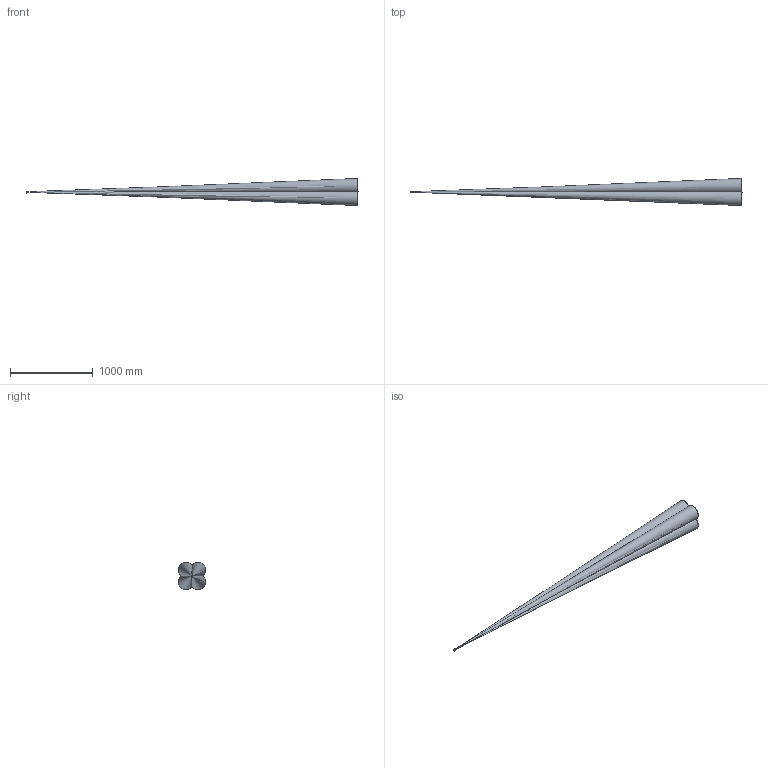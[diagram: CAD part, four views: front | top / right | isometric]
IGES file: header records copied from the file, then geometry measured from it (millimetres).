
Start section: C
Global section: file name: O200.RP-xxxx.xxxx_H006.igs; native system: By Siemens PLM Incorporated; preprocessor: XPlus GENERIC/IGES 19.0.9; author: Author; organization: Title; date: 20190117.142215; units: millimetre
Bounding box: 4016.68 x 328.06 x 327.86 mm (x, y, z)
Surface area: 5491820.8 mm2 (no closed solid volume)
Topology: 0 solids, 0 shells, 227 faces, 1788 edges, 1782 vertices
Faces by surface type: bspline 227
